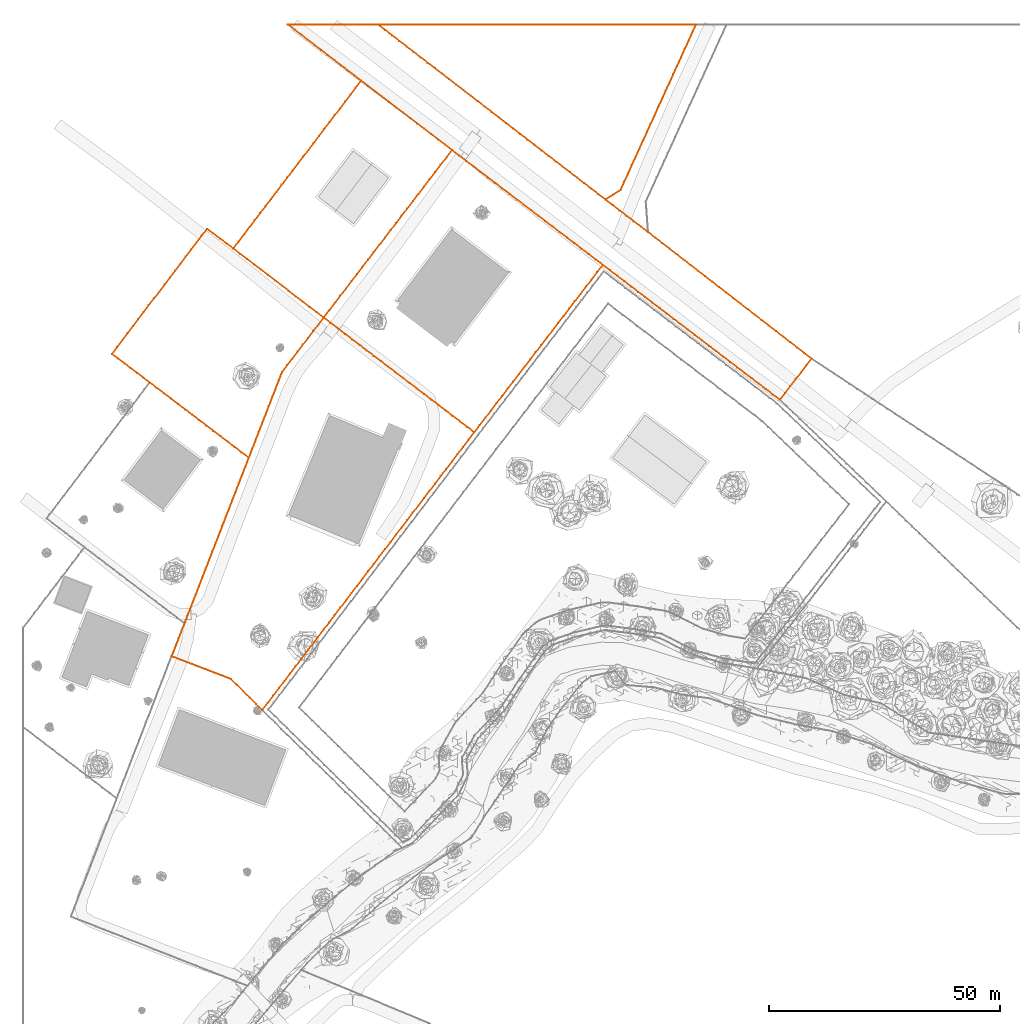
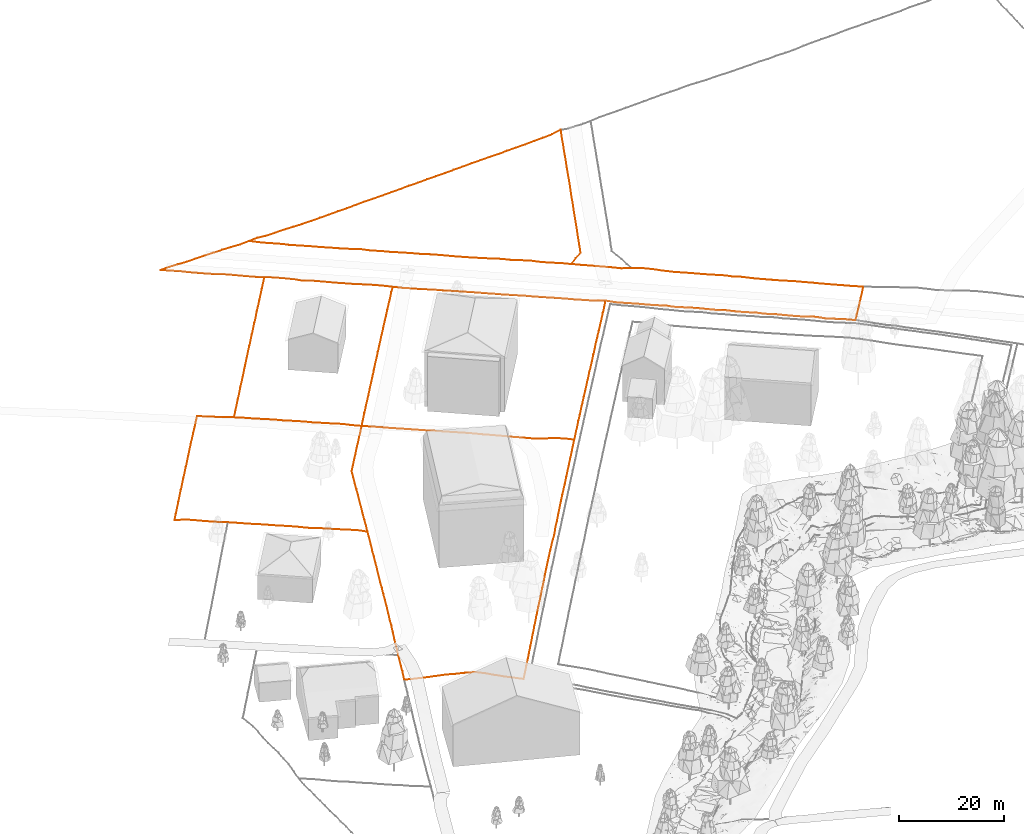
# Not in any storey, part 17 of 88: 6 geographic elements.
"""IFC4 model written with IfcOpenShell, lengths in metres."""

from ifc_helpers import new_model, entity, si_unit, origin_with_axes, place, context, subcontext, project, spatial, element, save


model = new_model("IFC4")

# Units and contexts
model_context = context("Model", 3, precision=1e-05, world=origin_with_axes())
body_context = subcontext(model_context, "Body", "Model", "MODEL_VIEW")
ifc_project = project(units=[si_unit("LENGTHUNIT", "METRE"), si_unit("AREAUNIT", "SQUARE_METRE"), si_unit("VOLUMEUNIT", "CUBIC_METRE"), si_unit("PLANEANGLEUNIT", "RADIAN")], contexts=[model_context])

# Sites
site_1_placement = place(None, origin_with_axes())
site_1 = spatial("IfcSite", under=ifc_project, at=site_1_placement, Name="CH907857693633", CompositionType="ELEMENT")
site_2_placement = place(None, origin_with_axes())
site_2 = spatial("IfcSite", under=site_1, at=site_2_placement, Name="Parcels", CompositionType="ELEMENT")

# Geographic elements
geographic_element_1_placement = place(None, origin_with_axes())
element("IfcGeographicElement", 1, at=geographic_element_1_placement, inside=site_2, Name="Parcel_CH680583450962", ObjectType="PARCEL", PredefinedType="USERDEFINED", context=body_context, shape_type="Curve3D", body=[
    entity("IfcIndexedPolyCurve", entity("IfcCartesianPointList3D", [[125.555514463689, 177.898146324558, 9.18183593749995], [123.999085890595, 179.082241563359, 8.9696166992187], [122.442657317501, 180.266336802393, 8.9618041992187], [120.886228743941, 181.450432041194, 8.9305541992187], [119.329800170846, 182.634527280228, 8.96064453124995], [117.773371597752, 183.818622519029, 8.95454101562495], [116.216943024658, 185.002717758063, 8.9298217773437], [114.660514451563, 186.186812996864, 8.90534667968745], [113.104085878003, 187.370908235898, 8.9360473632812], [111.547657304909, 188.555003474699, 8.90510253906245], [109.991228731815, 189.739098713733, 8.8645141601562], [108.43480015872, 190.923193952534, 8.87421874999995], [106.878371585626, 192.107289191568, 8.8662231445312], [105.321943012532, 193.291384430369, 8.8697631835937], [103.765514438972, 194.475479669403, 8.8512084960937], [102.209085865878, 195.659574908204, 8.8298461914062], [100.652657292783, 196.843670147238, 8.8056762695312], [99.096228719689, 198.027765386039, 8.81660156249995], [97.5398001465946, 199.211860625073, 8.73078613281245], [95.9833715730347, 200.395955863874, 8.70637207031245], [94.4269429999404, 201.580051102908, 8.6821411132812], [92.8705144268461, 202.764146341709, 8.7607543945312], [91.3565144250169, 203.921146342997, 8.86896972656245], [89.8425144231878, 205.078146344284, 8.8784301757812], [88.3285144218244, 206.235146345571, 8.8223999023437], [86.8145144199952, 207.392146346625, 8.7512329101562], [85.3005144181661, 208.549146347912, 8.75617675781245], [83.786514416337, 209.706146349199, 8.7354858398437], [82.2725144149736, 210.863146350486, 8.77656249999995], [80.7585144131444, 212.020146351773, 8.80317382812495], [79.2445144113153, 213.17714635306, 8.62763671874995], [77.7305144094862, 214.334146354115, 8.8276489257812], [76.2165144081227, 215.491146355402, 8.87592773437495], [74.7025144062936, 216.648146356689, 8.90314941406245], [73.1885144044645, 217.805146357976, 8.81269531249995], [71.7426398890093, 218.913769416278, 8.70722656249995], [70.2967653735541, 220.022392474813, 8.71809082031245], [68.8508908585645, 221.131015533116, 8.74873046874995], [67.4050163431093, 222.239638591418, 8.7849243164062], [65.9591418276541, 223.34826164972, 8.67023925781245], [64.5132673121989, 224.456884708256, 8.6120727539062], [63.0673927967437, 225.565507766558, 8.6340454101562], [61.6215182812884, 226.67413082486, 8.63630371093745], [60.1756437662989, 227.782753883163, 8.71540527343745], [58.7297692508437, 228.891376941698, 8.6671264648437], [57.2838947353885, 230.0, 8.6499145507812], [59.2383460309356, 230.0, 8.6807983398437], [61.1927973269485, 230.0, 8.62507324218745], [63.1472486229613, 230.0, 8.5472534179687], [65.1016999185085, 230.0, 8.56367187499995], [67.0561512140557, 230.0, 8.60151367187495], [69.0106025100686, 230.0, 8.5850952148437], [70.9650538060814, 230.0, 8.58149414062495], [72.9195051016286, 230.0, 8.5272338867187], [74.8739563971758, 230.0, 8.4610717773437], [76.8284076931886, 230.0, 8.59565429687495], [78.371614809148, 228.811676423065, 8.45319824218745], [79.9148219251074, 227.623352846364, 8.43720703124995], [81.4580290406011, 226.435029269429, 8.4729125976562], [83.0012361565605, 225.246705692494, 8.3969848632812], [84.5444432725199, 224.05838211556, 8.4049194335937], [86.0876503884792, 222.870058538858, 8.4472778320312], [87.6308575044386, 221.681734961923, 8.4300659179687], [89.1740646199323, 220.493411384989, 8.4640014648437], [90.7172717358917, 219.305087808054, 8.48078613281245], [92.2604788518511, 218.116764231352, 8.53083496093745], [93.8036859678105, 216.928440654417, 8.68525390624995], [95.3468930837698, 215.740117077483, 8.52875976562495], [96.8901001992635, 214.551793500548, 8.5752075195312], [98.4333073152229, 213.363469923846, 8.55549316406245], [99.9765144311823, 212.175146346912, 8.5996215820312], [101.51398502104, 210.991205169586, 8.6359985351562], [103.051455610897, 209.807263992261, 8.6203735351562], [104.588926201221, 208.623322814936, 8.7005737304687], [106.126396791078, 207.43938163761, 8.71613769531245], [107.663867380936, 206.255440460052, 8.6687133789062], [109.201337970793, 205.071499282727, 8.66914062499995], [110.738808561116, 203.887558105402, 8.6829956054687], [112.276279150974, 202.703616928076, 8.74360351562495], [113.813749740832, 201.519675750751, 8.7929809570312], [115.351220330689, 200.335734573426, 8.9041870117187], [116.888690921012, 199.1517933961, 8.84589843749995], [118.42616151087, 197.967852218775, 8.9455688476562], [119.963632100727, 196.783911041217, 9.0002563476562], [121.501102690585, 195.599969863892, 8.8770874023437], [123.038573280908, 194.416028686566, 8.90644531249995], [124.576043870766, 193.232087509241, 8.98420410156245], [126.113514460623, 192.048146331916, 8.94660644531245], [127.655347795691, 190.871146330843, 8.92731933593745], [129.197181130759, 189.69414632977, 8.91694335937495], [130.739014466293, 188.517146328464, 8.8979614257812], [132.280847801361, 187.340146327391, 8.8885620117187], [133.822681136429, 186.163146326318, 8.8088500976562], [135.364514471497, 184.986146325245, 9.0400512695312], [136.903688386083, 183.794363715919, 9.2286499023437], [138.442862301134, 182.602581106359, 9.19672851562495], [139.982036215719, 181.410798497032, 9.03315429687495], [141.521210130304, 180.219015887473, 8.9300659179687], [143.060384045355, 179.027233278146, 8.93317871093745], [144.59955795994, 177.835450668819, 8.97578124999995], [146.138731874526, 176.64366805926, 8.94611816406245], [147.677905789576, 175.451885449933, 8.9701049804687], [149.217079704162, 174.260102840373, 9.0489624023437], [150.756253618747, 173.068320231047, 8.93574218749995], [152.295427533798, 171.87653762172, 9.0153930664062], [153.834601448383, 170.68475501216, 8.8813598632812], [155.373775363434, 169.492972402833, 8.86542968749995], [156.912949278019, 168.301189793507, 8.8714721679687], [158.452123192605, 167.109407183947, 8.8735473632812], [159.991297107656, 165.91762457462, 8.95722656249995], [161.530471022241, 164.725841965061, 8.9288452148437], [163.069644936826, 163.534059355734, 8.92255859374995], [164.608818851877, 162.342276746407, 8.88154296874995], [166.147992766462, 161.150494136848, 8.87629394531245], [167.687166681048, 159.958711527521, 8.8801391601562], [169.226340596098, 158.766928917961, 8.88654785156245], [170.765514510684, 157.575146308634, 8.92451171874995], [169.622347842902, 156.090979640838, 8.8570678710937], [168.479181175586, 154.606812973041, 8.8787963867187], [167.336014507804, 153.122646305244, 8.88410644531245], [166.192847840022, 151.638479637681, 8.8504760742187], [165.049681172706, 150.154312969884, 8.92939453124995], [163.906514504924, 148.670146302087, 8.9259155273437], [162.372474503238, 149.839266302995, 8.9356811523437], [160.838434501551, 151.008386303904, 8.8775756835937], [159.304394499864, 152.177506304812, 8.8186157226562], [157.770354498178, 153.34662630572, 8.99860839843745], [156.236314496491, 154.515746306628, 8.88093261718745], [154.702274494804, 155.684866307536, 8.8332641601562], [153.168234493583, 156.853986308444, 8.87690429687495], [151.634194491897, 158.023106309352, 8.92316894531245], [150.10015449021, 159.192226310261, 8.8527954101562], [148.566114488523, 160.361346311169, 8.94953613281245], [147.032074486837, 161.530466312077, 8.88178710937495], [145.49803448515, 162.699586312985, 8.9063842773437], [143.963994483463, 163.86870631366, 8.9786499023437], [142.429954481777, 165.037826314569, 8.9038208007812], [140.89591448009, 166.206946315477, 8.9524047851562], [139.361874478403, 167.376066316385, 9.00666503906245], [137.827834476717, 168.545186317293, 8.96601562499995], [136.29379447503, 169.714306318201, 8.89545898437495], [134.759754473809, 170.883426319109, 9.04255371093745], [133.225714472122, 172.052546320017, 8.96235351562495], [131.691674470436, 173.221666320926, 8.9763305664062], [130.157634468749, 174.390786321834, 9.0083129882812], [128.623594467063, 175.559906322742, 8.9763305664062], [127.089554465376, 176.72902632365, 8.96467285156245], [125.555514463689, 177.898146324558, 9.18183593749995]]), None, False),
])
geographic_element_2_placement = place(None, origin_with_axes())
element("IfcGeographicElement", 2, at=geographic_element_2_placement, inside=site_2, Name="Parcel_CH256436785794", ObjectType="PARCEL", PredefinedType="USERDEFINED", context=body_context, shape_type="Curve3D", body=[
    entity("IfcIndexedPolyCurve", entity("IfcCartesianPointList3D", [[92.8705144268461, 202.764146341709, 8.7607543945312], [91.6616448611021, 201.186537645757, 8.86298828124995], [90.4527752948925, 199.608928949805, 8.81550292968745], [89.2439057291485, 198.031320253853, 8.8485229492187], [88.0350361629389, 196.453711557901, 8.8708618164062], [86.826166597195, 194.876102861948, 8.79743652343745], [85.6172970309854, 193.298494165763, 8.87141113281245], [84.4084274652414, 191.720885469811, 8.7680786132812], [83.1995578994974, 190.143276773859, 8.8285034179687], [81.9906883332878, 188.565668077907, 8.79121093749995], [80.7818187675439, 186.988059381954, 8.69404296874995], [79.5729492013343, 185.410450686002, 8.7153442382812], [78.3640796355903, 183.83284199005, 8.6381958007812], [77.1552100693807, 182.255233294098, 8.6645629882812], [75.9463405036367, 180.677624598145, 8.50385742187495], [74.7374709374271, 179.100015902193, 8.4797485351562], [73.5286013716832, 177.522407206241, 8.42304687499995], [72.3197318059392, 175.944798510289, 8.3452270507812], [71.1108622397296, 174.367189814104, 8.3277709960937], [69.9019926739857, 172.789581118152, 8.30891113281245], [68.693123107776, 171.211972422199, 8.27436523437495], [67.4842535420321, 169.634363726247, 8.19794921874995], [66.2753839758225, 168.056755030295, 8.1683471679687], [65.0665144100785, 166.479146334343, 7.9965942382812], [63.56043748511, 167.630454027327, 8.0223510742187], [62.0543605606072, 168.781761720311, 8.1327026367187], [60.5482836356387, 169.933069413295, 8.07148437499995], [59.0422067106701, 171.084377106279, 8.0310180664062], [57.5361297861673, 172.235684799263, 7.98640136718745], [56.0300528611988, 173.386992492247, 8.0315063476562], [54.5239759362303, 174.538300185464, 7.99018554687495], [53.0178990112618, 175.689607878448, 7.93708496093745], [51.5118220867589, 176.840915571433, 7.9734008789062], [50.0057451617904, 177.992223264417, 7.91767578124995], [48.4996682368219, 179.143530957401, 7.8597534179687], [46.993591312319, 180.294838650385, 7.86591796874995], [45.4875143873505, 181.446146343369, 7.80207519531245], [46.6569689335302, 182.981055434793, 7.83466796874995], [47.8264234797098, 184.515964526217, 7.8808715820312], [48.9958780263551, 186.050873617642, 7.9282348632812], [50.1653325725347, 187.585782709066, 7.90571289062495], [51.3347871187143, 189.12069180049, 8.0627563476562], [52.5042416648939, 190.655600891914, 8.04462890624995], [53.6736962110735, 192.190509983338, 8.11677246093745], [54.8431507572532, 193.725419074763, 8.2148559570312], [56.0126053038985, 195.260328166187, 8.31245117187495], [57.1820598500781, 196.795237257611, 8.2811401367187], [58.3515143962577, 198.330146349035, 8.37702636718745], [59.4928220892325, 199.828223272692, 8.3520629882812], [60.6341297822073, 201.326300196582, 8.37385253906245], [61.7754374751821, 202.82437712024, 8.4276245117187], [62.9167451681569, 204.32245404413, 8.4406860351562], [64.0580528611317, 205.820530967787, 8.48298339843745], [65.1993605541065, 207.318607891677, 8.43354492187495], [66.3406682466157, 208.816684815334, 8.64631347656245], [67.4819759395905, 210.314761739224, 8.6275756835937], [68.6232836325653, 211.812838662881, 8.5981567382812], [69.7645913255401, 213.310915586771, 8.6893432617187], [70.9058990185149, 214.808992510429, 8.60773925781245], [72.0472067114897, 216.307069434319, 8.67145996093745], [73.1885144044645, 217.805146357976, 8.81269531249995], [74.7025144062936, 216.648146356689, 8.90314941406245], [76.2165144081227, 215.491146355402, 8.87592773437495], [77.7305144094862, 214.334146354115, 8.8276489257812], [79.2445144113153, 213.17714635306, 8.62763671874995], [80.7585144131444, 212.020146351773, 8.80317382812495], [82.2725144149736, 210.863146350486, 8.77656249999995], [83.786514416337, 209.706146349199, 8.7354858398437], [85.3005144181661, 208.549146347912, 8.75617675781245], [86.8145144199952, 207.392146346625, 8.7512329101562], [88.3285144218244, 206.235146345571, 8.8223999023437], [89.8425144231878, 205.078146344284, 8.8784301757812], [91.3565144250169, 203.921146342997, 8.86896972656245], [92.8705144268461, 202.764146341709, 8.7607543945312]]), None, False),
])
geographic_element_3_placement = place(None, origin_with_axes())
element("IfcGeographicElement", 3, at=geographic_element_3_placement, inside=site_2, Name="Parcel_CH267836576479", ObjectType="PARCEL", PredefinedType="USERDEFINED", context=body_context, shape_type="Curve3D", body=[
    entity("IfcIndexedPolyCurve", entity("IfcCartesianPointList3D", [[65.0665144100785, 166.479146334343, 7.9965942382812], [66.2753839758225, 168.056755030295, 8.1683471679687], [67.4842535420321, 169.634363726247, 8.19794921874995], [68.693123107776, 171.211972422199, 8.27436523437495], [69.9019926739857, 172.789581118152, 8.30891113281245], [71.1108622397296, 174.367189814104, 8.3277709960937], [72.3197318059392, 175.944798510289, 8.3452270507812], [73.5286013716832, 177.522407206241, 8.42304687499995], [74.7374709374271, 179.100015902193, 8.4797485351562], [75.9463405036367, 180.677624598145, 8.50385742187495], [77.1552100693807, 182.255233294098, 8.6645629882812], [78.3640796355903, 183.83284199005, 8.6381958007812], [79.5729492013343, 185.410450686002, 8.7153442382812], [80.7818187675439, 186.988059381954, 8.69404296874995], [81.9906883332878, 188.565668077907, 8.79121093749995], [83.1995578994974, 190.143276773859, 8.8285034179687], [84.4084274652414, 191.720885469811, 8.7680786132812], [85.6172970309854, 193.298494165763, 8.87141113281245], [86.826166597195, 194.876102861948, 8.79743652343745], [88.0350361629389, 196.453711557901, 8.8708618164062], [89.2439057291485, 198.031320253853, 8.8485229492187], [90.4527752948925, 199.608928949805, 8.81550292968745], [91.6616448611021, 201.186537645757, 8.86298828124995], [92.8705144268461, 202.764146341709, 8.7607543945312], [94.4269429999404, 201.580051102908, 8.6821411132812], [95.9833715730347, 200.395955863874, 8.70637207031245], [97.5398001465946, 199.211860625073, 8.73078613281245], [99.096228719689, 198.027765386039, 8.81660156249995], [100.652657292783, 196.843670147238, 8.8056762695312], [102.209085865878, 195.659574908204, 8.8298461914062], [103.765514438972, 194.475479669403, 8.8512084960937], [105.321943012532, 193.291384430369, 8.8697631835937], [106.878371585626, 192.107289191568, 8.8662231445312], [108.43480015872, 190.923193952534, 8.87421874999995], [109.991228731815, 189.739098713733, 8.8645141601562], [111.547657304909, 188.555003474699, 8.90510253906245], [113.104085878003, 187.370908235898, 8.9360473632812], [114.660514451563, 186.186812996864, 8.90534667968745], [116.216943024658, 185.002717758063, 8.9298217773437], [117.773371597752, 183.818622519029, 8.95454101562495], [119.329800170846, 182.634527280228, 8.96064453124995], [120.886228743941, 181.450432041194, 8.9305541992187], [122.442657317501, 180.266336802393, 8.9618041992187], [123.999085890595, 179.082241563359, 8.9696166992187], [125.555514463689, 177.898146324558, 9.18183593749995], [124.344297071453, 176.321233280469, 9.09968261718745], [123.133079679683, 174.744320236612, 8.9771850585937], [121.921862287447, 173.167407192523, 9.01520996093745], [120.710644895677, 171.590494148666, 8.9878051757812], [119.499427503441, 170.013581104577, 8.97871093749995], [118.288210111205, 168.43666806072, 9.0600708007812], [117.076992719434, 166.859755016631, 9.1132934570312], [115.865775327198, 165.282841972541, 8.9255493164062], [114.654557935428, 163.705928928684, 8.9420288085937], [113.443340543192, 162.129015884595, 8.8650024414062], [112.232123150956, 160.552102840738, 8.88007812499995], [111.020905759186, 158.975189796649, 8.9016235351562], [109.80968836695, 157.398276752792, 8.8571899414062], [108.598470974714, 155.821363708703, 8.78693847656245], [107.387253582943, 154.244450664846, 8.77900390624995], [106.176036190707, 152.667537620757, 8.7795532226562], [104.964818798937, 151.090624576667, 8.7374389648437], [103.753601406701, 149.513711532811, 8.8005493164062], [102.542384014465, 147.936798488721, 8.61311035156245], [101.331166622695, 146.359885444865, 8.6295288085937], [100.119949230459, 144.782972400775, 8.53913574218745], [98.9087318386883, 143.206059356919, 8.51301269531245], [97.6975144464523, 141.629146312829, 8.42182617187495], [96.1436573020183, 142.812479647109, 8.56171874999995], [94.5898001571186, 143.995812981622, 8.45563964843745], [93.0359430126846, 145.179146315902, 8.2065551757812], [91.4820858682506, 146.362479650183, 7.9991577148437], [89.9282287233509, 147.545812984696, 8.0413940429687], [88.3743715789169, 148.729146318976, 8.04511718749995], [86.8205144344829, 149.912479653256, 8.0852172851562], [85.2666572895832, 151.095812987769, 8.1099975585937], [83.7128001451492, 152.279146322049, 8.1259887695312], [82.1589430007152, 153.462479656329, 8.16840820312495], [80.6050858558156, 154.645812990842, 8.1837280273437], [79.0512287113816, 155.829146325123, 8.13679199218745], [77.4973715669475, 157.012479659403, 8.1323364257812], [75.9435144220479, 158.195812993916, 8.1150024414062], [74.3896572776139, 159.379146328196, 8.0653198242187], [72.8358001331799, 160.562479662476, 8.0760620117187], [71.2819429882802, 161.745812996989, 8.0536010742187], [69.7280858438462, 162.929146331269, 8.0265014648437], [68.1742286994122, 164.112479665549, 8.0328491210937], [66.6203715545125, 165.295813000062, 8.0352905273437], [65.0665144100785, 166.479146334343, 7.9965942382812]]), None, False),
])
geographic_element_4_placement = place(None, origin_with_axes())
element("IfcGeographicElement", 4, at=geographic_element_4_placement, inside=site_2, Name="Parcel_CH375778643663", ObjectType="PARCEL", PredefinedType="USERDEFINED", context=body_context, shape_type="Curve3D", body=[
    entity("IfcIndexedPolyCurve", entity("IfcCartesianPointList3D", [[56.0715144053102, 154.715146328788, 7.7724731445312], [57.1958894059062, 156.185646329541, 7.82368164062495], [58.3202644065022, 157.656146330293, 7.85541992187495], [59.4446394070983, 159.126646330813, 7.8846557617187], [60.5690144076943, 160.597146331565, 7.9736450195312], [61.6933894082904, 162.067646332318, 7.9305541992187], [62.8177644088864, 163.53814633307, 7.96235351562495], [63.9421394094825, 165.00864633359, 7.9799926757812], [65.0665144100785, 166.479146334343, 7.9965942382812], [66.6203715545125, 165.295813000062, 8.0352905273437], [68.1742286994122, 164.112479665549, 8.0328491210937], [69.7280858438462, 162.929146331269, 8.0265014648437], [71.2819429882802, 161.745812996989, 8.0536010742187], [72.8358001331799, 160.562479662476, 8.0760620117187], [74.3896572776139, 159.379146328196, 8.0653198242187], [75.9435144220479, 158.195812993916, 8.1150024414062], [77.4973715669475, 157.012479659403, 8.1323364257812], [79.0512287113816, 155.829146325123, 8.13679199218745], [80.6050858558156, 154.645812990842, 8.1837280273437], [82.1589430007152, 153.462479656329, 8.16840820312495], [83.7128001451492, 152.279146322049, 8.1259887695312], [85.2666572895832, 151.095812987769, 8.1099975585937], [86.8205144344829, 149.912479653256, 8.0852172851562], [88.3743715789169, 148.729146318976, 8.04511718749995], [89.9282287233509, 147.545812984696, 8.0413940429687], [91.4820858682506, 146.362479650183, 7.9991577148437], [93.0359430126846, 145.179146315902, 8.2065551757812], [94.5898001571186, 143.995812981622, 8.45563964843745], [96.1436573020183, 142.812479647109, 8.56171874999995], [97.6975144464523, 141.629146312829, 8.42182617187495], [96.4883565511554, 140.044988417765, 8.4008911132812], [95.279198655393, 138.460830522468, 8.26118164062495], [94.0700407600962, 136.876672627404, 8.1995971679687], [92.8608828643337, 135.29251473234, 8.14631347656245], [91.6517249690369, 133.708356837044, 8.12861328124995], [90.4425670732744, 132.12419894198, 8.0481079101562], [89.2334091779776, 130.540041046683, 7.9322631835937], [88.0242512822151, 128.955883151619, 8.00544433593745], [86.8150933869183, 127.371725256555, 7.9558227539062], [85.6059354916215, 125.787567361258, 7.91584472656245], [84.396777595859, 124.203409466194, 7.8371704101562], [83.1876197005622, 122.61925157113, 7.5288208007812], [81.9784618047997, 121.035093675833, 7.41779785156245], [80.7693039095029, 119.450935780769, 7.5582397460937], [79.5601460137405, 117.866777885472, 6.97150878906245], [78.3509881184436, 116.282619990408, 7.3169067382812], [77.1418302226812, 114.698462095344, 7.4726684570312], [75.9326723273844, 113.114304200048, 7.4946411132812], [74.7235144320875, 111.530146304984, 7.57368164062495], [73.5143565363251, 109.94598840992, 7.47944335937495], [72.3051986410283, 108.361830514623, 7.33820800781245], [71.0960407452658, 106.777672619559, 7.35273437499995], [69.886882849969, 105.193514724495, 7.0704467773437], [68.6777249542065, 103.609356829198, 7.0095336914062], [67.4685670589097, 102.025198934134, 6.8862426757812], [66.2594091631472, 100.441041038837, 6.7816284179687], [65.0502512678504, 98.8568831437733, 6.74006347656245], [63.8410933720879, 97.2727252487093, 6.6206176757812], [62.6319354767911, 95.6885673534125, 6.43916015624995], [61.4227775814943, 94.1044094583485, 6.28620605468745], [60.2136196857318, 92.5202515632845, 6.12800292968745], [59.004461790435, 90.9360936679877, 5.9243286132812], [57.7953038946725, 89.3519357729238, 5.80927734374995], [56.5861459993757, 87.7677778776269, 5.6212280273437], [55.3769881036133, 86.183619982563, 5.45832519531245], [54.1678302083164, 84.599462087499, 5.37568359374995], [52.958672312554, 83.0153041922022, 5.21979980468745], [51.7495144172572, 81.4311462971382, 5.1327026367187], [50.3945144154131, 82.7787462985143, 5.0859497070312], [49.0395144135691, 84.1263463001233, 5.03400878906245], [47.6845144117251, 85.4739463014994, 5.0493286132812], [46.3295144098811, 86.8215463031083, 5.0843627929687], [44.9745144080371, 88.1691463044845, 5.04316406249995], [43.1375144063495, 88.8740034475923, 5.0752075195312], [41.300514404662, 89.5788605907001, 5.0461547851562], [39.4635144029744, 90.2837177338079, 5.08784179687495], [37.6265144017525, 90.9885748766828, 4.95197753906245], [35.7895144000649, 91.6934320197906, 4.8407104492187], [33.9525143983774, 92.3982891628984, 4.7761352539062], [32.1155143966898, 93.1031463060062, 4.77595214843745], [32.473514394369, 93.9311463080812, 4.8609741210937], [33.0865143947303, 95.503646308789, 4.9316528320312], [33.6995143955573, 97.0761463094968, 4.98713378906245], [34.3125143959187, 98.6486463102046, 5.0986450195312], [34.9255143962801, 100.221146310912, 5.2085083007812], [35.5385143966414, 101.793646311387, 5.32978515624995], [36.1515143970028, 103.366146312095, 5.42145996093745], [36.7645143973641, 104.93864631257, 5.5822875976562], [37.3775143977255, 106.511146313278, 5.7428100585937], [38.0943893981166, 108.360958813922, 6.02961425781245], [38.8112643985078, 110.2107713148, 6.10749511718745], [39.5281393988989, 112.060583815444, 6.24763183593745], [40.2450143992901, 113.910396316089, 6.4563110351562], [40.9618893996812, 115.760208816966, 6.5197875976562], [41.6787644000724, 117.610021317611, 6.58686523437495], [42.3956394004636, 119.459833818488, 6.5467651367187], [43.1125144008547, 121.309646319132, 6.64887695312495], [43.8293894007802, 123.159458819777, 6.70869140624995], [44.5462644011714, 125.009271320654, 6.89875488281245], [45.2631394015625, 126.859083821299, 6.97211914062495], [45.9800144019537, 128.708896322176, 7.04768066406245], [46.6968894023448, 130.55870882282, 7.14753417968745], [47.413764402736, 132.408521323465, 7.2655151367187], [48.1306394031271, 134.258333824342, 7.3464477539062], [48.8475144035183, 136.108146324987, 7.38911132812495], [49.5699144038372, 137.968846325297, 7.46491699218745], [50.2923144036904, 139.82954632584, 7.40021972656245], [51.0147144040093, 141.69024632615, 7.4550903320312], [51.7371144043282, 143.550946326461, 7.59418945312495], [52.4595144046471, 145.411646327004, 7.53889160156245], [53.1819144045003, 147.272346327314, 7.6171997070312], [53.9043144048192, 149.133046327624, 7.6311157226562], [54.626714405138, 150.993746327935, 7.71870117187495], [55.3491144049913, 152.854446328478, 7.71650390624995], [56.0715144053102, 154.715146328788, 7.7724731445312]]), None, False),
])
geographic_element_5_placement = place(None, origin_with_axes())
element("IfcGeographicElement", 5, at=geographic_element_5_placement, inside=site_2, Name="Parcel_CH207857643692", ObjectType="PARCEL", PredefinedType="USERDEFINED", context=body_context, shape_type="Curve3D", body=[
    entity("IfcIndexedPolyCurve", entity("IfcCartesianPointList3D", [[27.3725143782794, 152.431146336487, 7.23017578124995], [26.0085143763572, 153.462979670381, 7.1417358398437], [24.6445143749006, 154.494813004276, 7.11835937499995], [23.2805143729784, 155.52664633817, 7.12690429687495], [21.9165143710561, 156.558479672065, 7.18586425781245], [20.5525143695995, 157.59031300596, 7.0958374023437], [19.1885143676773, 158.622146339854, 6.82978515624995], [20.3328477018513, 160.127146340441, 6.90839843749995], [21.4771810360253, 161.632146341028, 7.01557617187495], [22.6215143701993, 163.137146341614, 7.13288574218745], [23.7658477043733, 164.642146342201, 7.1855590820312], [24.9101810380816, 166.147146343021, 7.2370727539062], [26.0545143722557, 167.652146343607, 7.29157714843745], [27.1988477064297, 169.157146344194, 7.3479125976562], [28.3431810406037, 170.662146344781, 7.30878906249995], [29.4875143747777, 172.167146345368, 7.35957031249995], [30.6318477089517, 173.672146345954, 7.36262207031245], [31.7761810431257, 175.177146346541, 7.3932006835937], [32.9205143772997, 176.682146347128, 7.5296752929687], [34.0648477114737, 178.187146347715, 7.5172241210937], [35.209181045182, 179.692146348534, 7.5323608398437], [36.3535143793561, 181.197146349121, 7.49799804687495], [37.4978477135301, 182.702146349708, 7.4069946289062], [38.6421810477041, 184.207146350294, 7.4028442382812], [39.7865143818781, 185.712146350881, 7.50812988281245], [41.2117643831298, 184.645646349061, 7.53681640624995], [42.6370143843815, 183.579146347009, 7.6152465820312], [44.0622643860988, 182.512646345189, 7.68879394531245], [45.4875143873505, 181.446146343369, 7.80207519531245], [46.993591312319, 180.294838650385, 7.86591796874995], [48.4996682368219, 179.143530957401, 7.8597534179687], [50.0057451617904, 177.992223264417, 7.91767578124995], [51.5118220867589, 176.840915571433, 7.9734008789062], [53.0178990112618, 175.689607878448, 7.93708496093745], [54.5239759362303, 174.538300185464, 7.99018554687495], [56.0300528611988, 173.386992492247, 8.0315063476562], [57.5361297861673, 172.235684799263, 7.98640136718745], [59.0422067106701, 171.084377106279, 8.0310180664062], [60.5482836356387, 169.933069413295, 8.07148437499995], [62.0543605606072, 168.781761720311, 8.1327026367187], [63.56043748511, 167.630454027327, 8.0223510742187], [65.0665144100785, 166.479146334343, 7.9965942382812], [63.9421394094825, 165.00864633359, 7.9799926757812], [62.8177644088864, 163.538146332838, 7.96235351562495], [61.6933894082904, 162.067646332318, 7.9305541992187], [60.5690144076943, 160.597146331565, 7.9736450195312], [59.4446394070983, 159.126646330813, 7.8846557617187], [58.3202644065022, 157.65614633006, 7.85541992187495], [57.1958894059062, 156.185646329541, 7.82368164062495], [56.0715144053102, 154.715146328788, 7.7724731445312], [55.3491144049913, 152.854446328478, 7.71650390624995], [54.626714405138, 150.993746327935, 7.71870117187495], [53.9043144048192, 149.133046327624, 7.6311157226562], [53.1819144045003, 147.272346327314, 7.6171997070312], [52.4595144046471, 145.411646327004, 7.53889160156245], [51.7371144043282, 143.550946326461, 7.59418945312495], [51.0147144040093, 141.69024632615, 7.4550903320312], [50.2923144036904, 139.82954632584, 7.40021972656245], [49.5699144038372, 137.968846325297, 7.46491699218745], [48.8475144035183, 136.108146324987, 7.38911132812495], [47.3135858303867, 137.27407489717, 7.57600097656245], [45.7796572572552, 138.440003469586, 7.5372436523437], [44.2457286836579, 139.60593204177, 7.4654663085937], [42.7118001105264, 140.771860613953, 7.42976074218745], [41.1778715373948, 141.937789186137, 7.39973144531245], [39.6439429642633, 143.103717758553, 7.2832153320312], [38.1100143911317, 144.269646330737, 7.3541381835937], [36.5760858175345, 145.43557490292, 7.36677246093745], [35.0421572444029, 146.601503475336, 7.3095825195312], [33.5082286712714, 147.76743204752, 7.31159667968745], [31.9743000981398, 148.933360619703, 7.30036621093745], [30.4403715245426, 150.099289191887, 7.23200683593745], [28.906442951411, 151.265217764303, 7.24665527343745], [27.3725143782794, 152.431146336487, 7.23017578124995]]), None, False),
])
geographic_element_6_placement = place(None, origin_with_axes())
element("IfcGeographicElement", 6, at=geographic_element_6_placement, inside=site_2, Name="Parcel_CH933678576959", ObjectType="PARCEL", PredefinedType="USERDEFINED", context=body_context, shape_type="Curve3D", body=[
    entity("IfcIndexedPolyCurve", entity("IfcCartesianPointList3D", [[129.396514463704, 194.126146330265, 9.22297363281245], [127.755014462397, 193.08714633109, 9.12421874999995], [126.113514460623, 192.048146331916, 8.94660644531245], [124.576043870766, 193.232087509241, 8.98420410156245], [123.038573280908, 194.416028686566, 8.90644531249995], [121.501102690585, 195.599969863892, 8.8770874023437], [119.963632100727, 196.783911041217, 9.0002563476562], [118.42616151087, 197.967852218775, 8.9455688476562], [116.888690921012, 199.1517933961, 8.84589843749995], [115.351220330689, 200.335734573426, 8.9041870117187], [113.813749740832, 201.519675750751, 8.7929809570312], [112.276279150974, 202.703616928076, 8.74360351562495], [110.738808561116, 203.887558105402, 8.6829956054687], [109.201337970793, 205.071499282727, 8.66914062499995], [107.663867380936, 206.255440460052, 8.6687133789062], [106.126396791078, 207.43938163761, 8.71613769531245], [104.588926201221, 208.623322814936, 8.7005737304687], [103.051455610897, 209.807263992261, 8.6203735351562], [101.51398502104, 210.991205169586, 8.6359985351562], [99.9765144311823, 212.175146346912, 8.5996215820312], [98.4333073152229, 213.363469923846, 8.55549316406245], [96.8901001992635, 214.551793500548, 8.5752075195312], [95.3468930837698, 215.740117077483, 8.52875976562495], [93.8036859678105, 216.928440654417, 8.68525390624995], [92.2604788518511, 218.116764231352, 8.53083496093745], [90.7172717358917, 219.305087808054, 8.48078613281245], [89.1740646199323, 220.493411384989, 8.4640014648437], [87.6308575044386, 221.681734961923, 8.4300659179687], [86.0876503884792, 222.870058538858, 8.4472778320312], [84.5444432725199, 224.05838211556, 8.4049194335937], [83.0012361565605, 225.246705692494, 8.3969848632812], [81.4580290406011, 226.435029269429, 8.4729125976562], [79.9148219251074, 227.623352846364, 8.43720703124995], [78.371614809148, 228.811676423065, 8.45319824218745], [76.8284076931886, 230.0, 8.59565429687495], [78.7973718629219, 230.0, 8.6551635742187], [80.7663360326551, 230.0, 8.45100097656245], [82.7353002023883, 230.0, 8.48774414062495], [84.7042643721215, 230.0, 8.5174682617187], [86.6732285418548, 230.0, 8.4679077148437], [88.642192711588, 230.0, 8.4293334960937], [90.6111568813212, 230.0, 8.41840820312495], [92.5801210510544, 230.0, 8.48127441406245], [94.5490852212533, 230.0, 8.54536132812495], [96.5180493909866, 230.0, 8.63483886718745], [98.4870135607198, 230.0, 8.65656738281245], [100.455977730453, 230.0, 8.7336547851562], [102.424941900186, 230.0, 8.8230102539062], [104.393906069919, 230.0, 8.82880859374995], [106.362870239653, 230.0, 8.9000366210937], [108.331834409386, 230.0, 8.9546020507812], [110.300798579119, 230.0, 9.01484374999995], [112.269762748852, 230.0, 9.0839965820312], [114.238726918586, 230.0, 9.10249023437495], [116.207691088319, 230.0, 9.1969116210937], [118.176655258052, 230.0, 9.2428100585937], [120.145619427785, 230.0, 9.2901733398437], [122.114583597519, 230.0, 9.3457153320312], [124.083547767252, 230.0, 9.3967407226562], [126.052511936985, 230.0, 9.49445800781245], [128.021476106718, 230.0, 9.53718261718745], [129.990440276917, 230.0, 9.60810546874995], [131.95940444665, 230.0, 9.59626464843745], [133.928368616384, 230.0, 9.6637084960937], [135.897332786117, 230.0, 9.72236328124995], [137.86629695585, 230.0, 9.77229003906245], [139.835261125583, 230.0, 9.88850097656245], [141.804225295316, 230.0, 9.9516723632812], [143.77318946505, 230.0, 10.0589111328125], [145.742153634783, 230.0, 10.4211547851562], [144.924871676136, 228.206307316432, 10.1999633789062], [144.107589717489, 226.412614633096, 10.2465942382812], [143.290307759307, 224.618921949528, 10.1939819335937], [142.47302580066, 222.82522926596, 10.1854370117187], [141.655743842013, 221.031536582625, 10.209912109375], [140.838461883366, 219.237843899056, 10.01337890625], [140.021179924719, 217.444151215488, 10.064892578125], [139.203897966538, 215.650458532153, 10.0755126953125], [138.386616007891, 213.856765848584, 10.1941040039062], [137.569334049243, 212.063073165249, 9.98066406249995], [136.752052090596, 210.269380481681, 9.86372070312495], [135.934770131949, 208.475687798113, 9.85529785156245], [135.117488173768, 206.681995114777, 9.72602539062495], [134.300206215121, 204.888302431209, 9.6823852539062], [133.482924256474, 203.094609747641, 9.63642578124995], [132.665642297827, 201.300917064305, 9.7314575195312], [131.84836033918, 199.507224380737, 9.4121215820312], [131.031078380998, 197.713531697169, 9.3653686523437], [130.213796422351, 195.919839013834, 9.31354980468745], [129.396514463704, 194.126146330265, 9.22297363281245]]), None, False),
])

save(model, "model.ifc")
